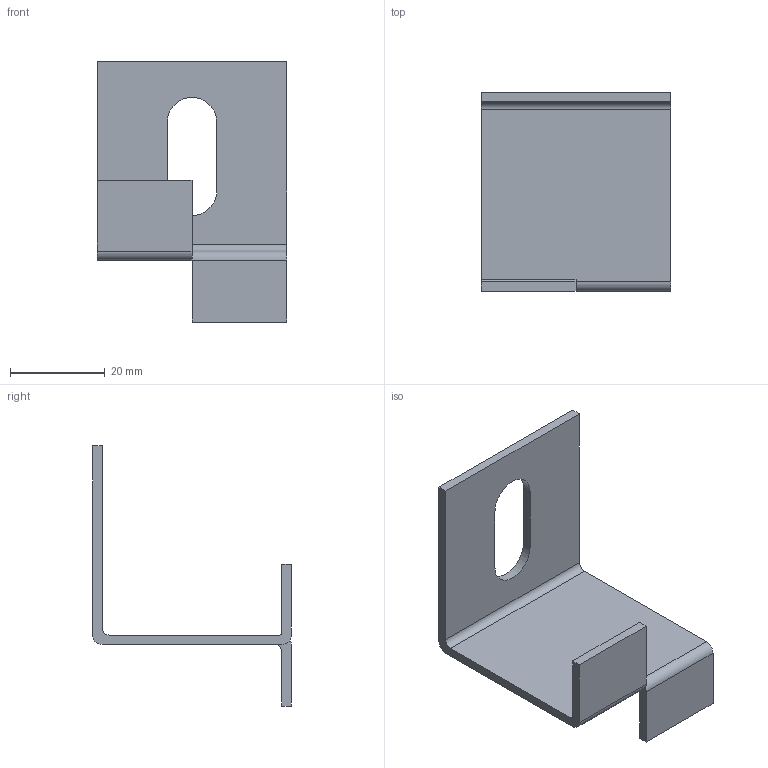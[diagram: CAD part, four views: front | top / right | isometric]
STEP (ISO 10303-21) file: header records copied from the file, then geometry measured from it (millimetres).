
FILE_DESCRIPTION(/* description */ (''),/* implementation_level */ '2;1');
FILE_NAME(/* name */ 'GE-AYF.step',/* time_stamp */ '2025-12-16T17:26:20+03:00',/* author */ (''),/* organization */ (''),/* preprocessor_version */ 'ST-DEVELOPER v20.1',/* originating_system */ 'Autodesk Translation Framework v14.21.0.0',/* authorisation */ '');
FILE_SCHEMA (('AUTOMOTIVE_DESIGN { 1 0 10303 214 3 1 1 }'));
Length unit declared in the file: millimetre
Products named in the file (1): GE-AYF
Bounding box: 40 x 42 x 55 mm (x, y, z)
Volume: 7163.7 mm3; surface area: 7814.7 mm2
Topology: 1 solids, 1 shells, 25 faces, 68 edges, 45 vertices
Faces by surface type: plane 17, cylinder 8
Entity records: 836 total; most frequent: CARTESIAN_POINT 139, DIRECTION 138, ORIENTED_EDGE 136, EDGE_CURVE 68, LINE 50, VECTOR 50, VERTEX_POINT 45, AXIS2_PLACEMENT_3D 44
